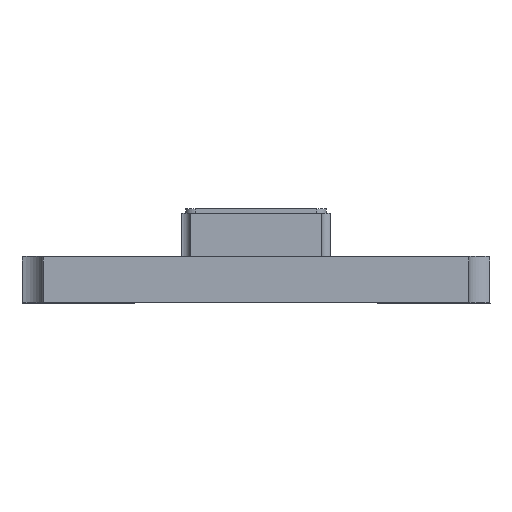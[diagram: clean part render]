
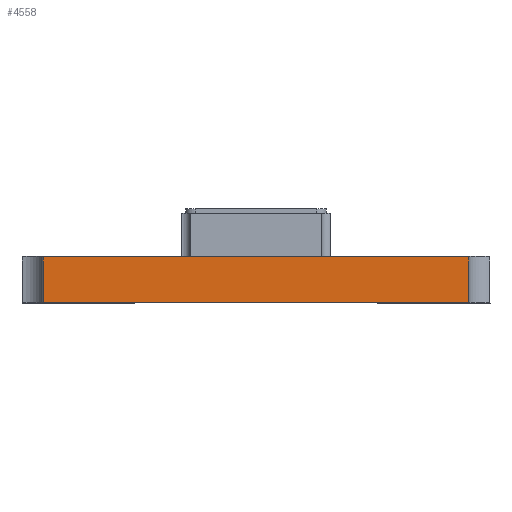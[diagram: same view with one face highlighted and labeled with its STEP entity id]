
A CAD part, left-side view. The second image highlights one B-rep face of the part: STEP entity #4558.
In plain terms, the highlighted planar face has unit normal (-1, 0, 0).
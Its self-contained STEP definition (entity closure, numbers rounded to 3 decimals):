
#292 = PLANE('',#293);
#293 = AXIS2_PLACEMENT_3D('',#294,#295,#296);
#294 = CARTESIAN_POINT('',(0.,0.,0.));
#295 = DIRECTION('',(0.,0.,1.));
#296 = DIRECTION('',(1.,0.,0.));
#346 = CYLINDRICAL_SURFACE('',#347,0.275);
#347 = AXIS2_PLACEMENT_3D('',#348,#349,#350);
#348 = CARTESIAN_POINT('',(-3.545,2.545,0.49));
#349 = DIRECTION('',(0.,0.,1.));
#350 = DIRECTION('',(1.,0.,0.));
#790 = VERTEX_POINT('',#791);
#791 = CARTESIAN_POINT('',(-3.5,2.274,0.));
#813 = EDGE_CURVE('',#814,#790,#816,.T.);
#814 = VERTEX_POINT('',#815);
#815 = CARTESIAN_POINT('',(-3.5,-2.274,0.));
#816 = SURFACE_CURVE('',#817,(#821,#828),.PCURVE_S1.);
#817 = LINE('',#818,#819);
#818 = CARTESIAN_POINT('',(-3.5,-2.5,0.));
#819 = VECTOR('',#820,1.);
#820 = DIRECTION('',(0.,1.,0.));
#821 = PCURVE('',#292,#822);
#822 = DEFINITIONAL_REPRESENTATION('',(#823),#827);
#823 = LINE('',#824,#825);
#824 = CARTESIAN_POINT('',(-3.5,-2.5));
#825 = VECTOR('',#826,1.);
#826 = DIRECTION('',(0.,1.));
#827 = ( GEOMETRIC_REPRESENTATION_CONTEXT(2) 
PARAMETRIC_REPRESENTATION_CONTEXT() REPRESENTATION_CONTEXT('2D SPACE',''
  ) );
#828 = PCURVE('',#829,#834);
#829 = PLANE('',#830);
#830 = AXIS2_PLACEMENT_3D('',#831,#832,#833);
#831 = CARTESIAN_POINT('',(-3.5,-2.5,0.));
#832 = DIRECTION('',(-1.,0.,0.));
#833 = DIRECTION('',(0.,1.,0.));
#834 = DEFINITIONAL_REPRESENTATION('',(#835),#839);
#835 = LINE('',#836,#837);
#836 = CARTESIAN_POINT('',(0.,0.));
#837 = VECTOR('',#838,1.);
#838 = DIRECTION('',(1.,0.));
#839 = ( GEOMETRIC_REPRESENTATION_CONTEXT(2) 
PARAMETRIC_REPRESENTATION_CONTEXT() REPRESENTATION_CONTEXT('2D SPACE',''
  ) );
#858 = CYLINDRICAL_SURFACE('',#859,0.275);
#859 = AXIS2_PLACEMENT_3D('',#860,#861,#862);
#860 = CARTESIAN_POINT('',(-3.545,-2.545,0.49));
#861 = DIRECTION('',(0.,0.,1.));
#862 = DIRECTION('',(1.,0.,0.));
#2228 = VERTEX_POINT('',#2229);
#2229 = CARTESIAN_POINT('',(-3.5,2.274,0.49));
#2251 = EDGE_CURVE('',#790,#2228,#2252,.T.);
#2252 = SURFACE_CURVE('',#2253,(#2257,#2264),.PCURVE_S1.);
#2253 = LINE('',#2254,#2255);
#2254 = CARTESIAN_POINT('',(-3.5,2.274,0.49));
#2255 = VECTOR('',#2256,1.);
#2256 = DIRECTION('',(0.,0.,1.));
#2257 = PCURVE('',#346,#2258);
#2258 = DEFINITIONAL_REPRESENTATION('',(#2259),#2263);
#2259 = LINE('',#2260,#2261);
#2260 = CARTESIAN_POINT('',(4.877,0.));
#2261 = VECTOR('',#2262,1.);
#2262 = DIRECTION('',(0.,1.));
#2263 = ( GEOMETRIC_REPRESENTATION_CONTEXT(2) 
PARAMETRIC_REPRESENTATION_CONTEXT() REPRESENTATION_CONTEXT('2D SPACE',''
  ) );
#2264 = PCURVE('',#829,#2265);
#2265 = DEFINITIONAL_REPRESENTATION('',(#2266),#2270);
#2266 = LINE('',#2267,#2268);
#2267 = CARTESIAN_POINT('',(4.774,-0.49));
#2268 = VECTOR('',#2269,1.);
#2269 = DIRECTION('',(0.,-1.));
#2270 = ( GEOMETRIC_REPRESENTATION_CONTEXT(2) 
PARAMETRIC_REPRESENTATION_CONTEXT() REPRESENTATION_CONTEXT('2D SPACE',''
  ) );
#4508 = VERTEX_POINT('',#4509);
#4509 = CARTESIAN_POINT('',(-3.5,-2.274,0.49));
#4536 = EDGE_CURVE('',#814,#4508,#4537,.T.);
#4537 = SURFACE_CURVE('',#4538,(#4542,#4549),.PCURVE_S1.);
#4538 = LINE('',#4539,#4540);
#4539 = CARTESIAN_POINT('',(-3.5,-2.274,0.49));
#4540 = VECTOR('',#4541,1.);
#4541 = DIRECTION('',(0.,0.,1.));
#4542 = PCURVE('',#858,#4543);
#4543 = DEFINITIONAL_REPRESENTATION('',(#4544),#4548);
#4544 = LINE('',#4545,#4546);
#4545 = CARTESIAN_POINT('',(-4.877,0.));
#4546 = VECTOR('',#4547,1.);
#4547 = DIRECTION('',(-0.,1.));
#4548 = ( GEOMETRIC_REPRESENTATION_CONTEXT(2) 
PARAMETRIC_REPRESENTATION_CONTEXT() REPRESENTATION_CONTEXT('2D SPACE',''
  ) );
#4549 = PCURVE('',#829,#4550);
#4550 = DEFINITIONAL_REPRESENTATION('',(#4551),#4555);
#4551 = LINE('',#4552,#4553);
#4552 = CARTESIAN_POINT('',(0.226,-0.49));
#4553 = VECTOR('',#4554,1.);
#4554 = DIRECTION('',(0.,-1.));
#4555 = ( GEOMETRIC_REPRESENTATION_CONTEXT(2) 
PARAMETRIC_REPRESENTATION_CONTEXT() REPRESENTATION_CONTEXT('2D SPACE',''
  ) );
#4558 = ADVANCED_FACE('',(#4559),#829,.T.);
#4559 = FACE_BOUND('',#4560,.T.);
#4560 = EDGE_LOOP('',(#4561,#4562,#4563,#4589));
#4561 = ORIENTED_EDGE('',*,*,#813,.F.);
#4562 = ORIENTED_EDGE('',*,*,#4536,.T.);
#4563 = ORIENTED_EDGE('',*,*,#4564,.T.);
#4564 = EDGE_CURVE('',#4508,#2228,#4565,.T.);
#4565 = SURFACE_CURVE('',#4566,(#4570,#4577),.PCURVE_S1.);
#4566 = LINE('',#4567,#4568);
#4567 = CARTESIAN_POINT('',(-3.5,-2.5,0.49));
#4568 = VECTOR('',#4569,1.);
#4569 = DIRECTION('',(0.,1.,0.));
#4570 = PCURVE('',#829,#4571);
#4571 = DEFINITIONAL_REPRESENTATION('',(#4572),#4576);
#4572 = LINE('',#4573,#4574);
#4573 = CARTESIAN_POINT('',(0.,-0.49));
#4574 = VECTOR('',#4575,1.);
#4575 = DIRECTION('',(1.,0.));
#4576 = ( GEOMETRIC_REPRESENTATION_CONTEXT(2) 
PARAMETRIC_REPRESENTATION_CONTEXT() REPRESENTATION_CONTEXT('2D SPACE',''
  ) );
#4577 = PCURVE('',#4578,#4583);
#4578 = PLANE('',#4579);
#4579 = AXIS2_PLACEMENT_3D('',#4580,#4581,#4582);
#4580 = CARTESIAN_POINT('',(-3.5,2.274,0.49));
#4581 = DIRECTION('',(1.,0.,0.));
#4582 = DIRECTION('',(0.,-1.,0.));
#4583 = DEFINITIONAL_REPRESENTATION('',(#4584),#4588);
#4584 = LINE('',#4585,#4586);
#4585 = CARTESIAN_POINT('',(4.774,0.));
#4586 = VECTOR('',#4587,1.);
#4587 = DIRECTION('',(-1.,0.));
#4588 = ( GEOMETRIC_REPRESENTATION_CONTEXT(2) 
PARAMETRIC_REPRESENTATION_CONTEXT() REPRESENTATION_CONTEXT('2D SPACE',''
  ) );
#4589 = ORIENTED_EDGE('',*,*,#2251,.F.);
